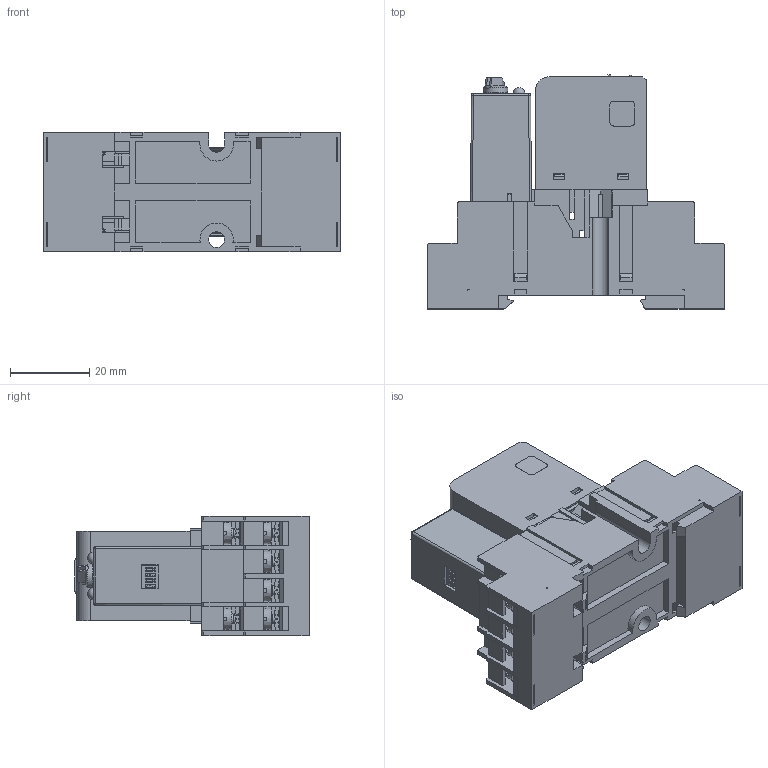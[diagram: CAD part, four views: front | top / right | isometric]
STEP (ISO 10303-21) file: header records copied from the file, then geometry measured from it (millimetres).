
FILE_DESCRIPTION(('STEP AP214'), '1');
FILE_NAME('Ðåëå ìîäóëüíîå ÐÏ30Õ-ÂÕ-220 (íà ïîêàç)', '', ('UNSPECIFIED'), ('UNSPECIFIED'), 'ASCON STEP Converter 1.6', 'ASCON Math Kernel', '');
FILE_SCHEMA(('AUTOMOTIVE_DESIGN { 1 0 10303 214 3 1 1}'));
Length unit declared in the file: millimetre
Bounding box: 74.9 x 59 x 30 mm (x, y, z)
Volume: 22085.5 mm3; surface area: 40071.8 mm2
Topology: 15 solids, 15 shells, 3380 faces, 9556 edges, 6128 vertices
Faces by surface type: plane 2524, cylinder 533, torus 140, bspline 108, cone 73, sphere 2
Full cylindrical faces by diameter (mm): 0.3 x4, 0.6 x2, 2.3 x10, 3 x24, 3.2 x3, 3.54 x10, 4 x1, 4.5 x14
Entity records: 153609 total; most frequent: CARTESIAN_POINT 41364, ORIENTED_EDGE 18858, DIRECTION 15815, EDGE_CURVE 9429, LINE 6845, VECTOR 6845, VERTEX_POINT 6126, AXIS2_PLACEMENT_3D 4485
